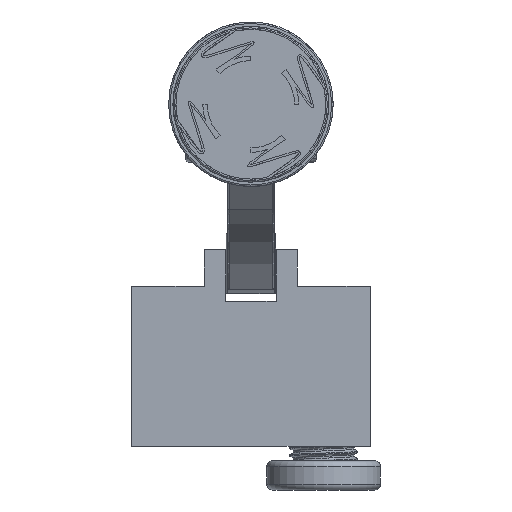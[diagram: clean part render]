
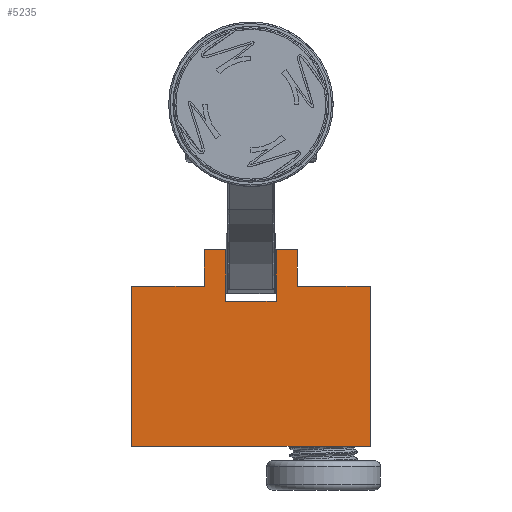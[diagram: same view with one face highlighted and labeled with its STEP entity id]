
A CAD part, front view. The second image highlights one B-rep face of the part: STEP entity #5235.
In plain terms, the highlighted planar face has unit normal (0, -1, 0).
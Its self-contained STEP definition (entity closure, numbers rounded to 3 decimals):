
#648=FACE_OUTER_BOUND('',#966,.T.);
#966=EDGE_LOOP('',(#4478,#4479,#4480,#4481,#4482,#4483,#4484,#4485,#4486,
#4487,#4488,#4489));
#1535=LINE('',#11289,#1903);
#1541=LINE('',#11300,#1909);
#1542=LINE('',#11304,#1910);
#1546=LINE('',#11312,#1914);
#1549=LINE('',#11319,#1917);
#1553=LINE('',#11327,#1921);
#1554=LINE('',#11329,#1922);
#1555=LINE('',#11330,#1923);
#1556=LINE('',#11332,#1924);
#1557=LINE('',#11334,#1925);
#1558=LINE('',#11335,#1926);
#1559=LINE('',#11336,#1927);
#1903=VECTOR('',#6726,10.);
#1909=VECTOR('',#6734,10.);
#1910=VECTOR('',#6737,10.);
#1914=VECTOR('',#6743,10.);
#1917=VECTOR('',#6748,10.);
#1921=VECTOR('',#6754,10.);
#1922=VECTOR('',#6755,10.);
#1923=VECTOR('',#6756,10.);
#1924=VECTOR('',#6757,10.);
#1925=VECTOR('',#6758,10.);
#1926=VECTOR('',#6759,10.);
#1927=VECTOR('',#6760,10.);
#2423=VERTEX_POINT('',#11287);
#2424=VERTEX_POINT('',#11288);
#2428=VERTEX_POINT('',#11298);
#2429=VERTEX_POINT('',#11302);
#2430=VERTEX_POINT('',#11303);
#2433=VERTEX_POINT('',#11311);
#2435=VERTEX_POINT('',#11317);
#2436=VERTEX_POINT('',#11318);
#2439=VERTEX_POINT('',#11326);
#2440=VERTEX_POINT('',#11328);
#2441=VERTEX_POINT('',#11331);
#2442=VERTEX_POINT('',#11333);
#3136=EDGE_CURVE('',#2423,#2424,#1535,.T.);
#3142=EDGE_CURVE('',#2428,#2423,#1541,.T.);
#3143=EDGE_CURVE('',#2429,#2430,#1542,.T.);
#3147=EDGE_CURVE('',#2433,#2430,#1546,.T.);
#3150=EDGE_CURVE('',#2435,#2436,#1549,.T.);
#3154=EDGE_CURVE('',#2439,#2435,#1553,.T.);
#3155=EDGE_CURVE('',#2436,#2440,#1554,.T.);
#3156=EDGE_CURVE('',#2440,#2424,#1555,.T.);
#3157=EDGE_CURVE('',#2441,#2428,#1556,.T.);
#3158=EDGE_CURVE('',#2441,#2442,#1557,.T.);
#3159=EDGE_CURVE('',#2433,#2442,#1558,.T.);
#3160=EDGE_CURVE('',#2439,#2429,#1559,.T.);
#4478=ORIENTED_EDGE('',*,*,#3154,.T.);
#4479=ORIENTED_EDGE('',*,*,#3150,.T.);
#4480=ORIENTED_EDGE('',*,*,#3155,.T.);
#4481=ORIENTED_EDGE('',*,*,#3156,.T.);
#4482=ORIENTED_EDGE('',*,*,#3136,.F.);
#4483=ORIENTED_EDGE('',*,*,#3142,.F.);
#4484=ORIENTED_EDGE('',*,*,#3157,.F.);
#4485=ORIENTED_EDGE('',*,*,#3158,.T.);
#4486=ORIENTED_EDGE('',*,*,#3159,.F.);
#4487=ORIENTED_EDGE('',*,*,#3147,.T.);
#4488=ORIENTED_EDGE('',*,*,#3143,.F.);
#4489=ORIENTED_EDGE('',*,*,#3160,.F.);
#4989=PLANE('',#5667);
#5235=ADVANCED_FACE('',(#648),#4989,.T.);
#5667=AXIS2_PLACEMENT_3D('',#11325,#6752,#6753);
#6726=DIRECTION('',(0.,0.,1.));
#6734=DIRECTION('',(1.,0.,0.));
#6737=DIRECTION('',(0.,0.,-1.));
#6743=DIRECTION('',(-1.,0.,0.));
#6748=DIRECTION('',(-1.,0.,0.));
#6752=DIRECTION('center_axis',(0.,-1.,0.));
#6753=DIRECTION('ref_axis',(1.,0.,0.));
#6754=DIRECTION('',(0.,0.,-1.));
#6755=DIRECTION('',(0.,0.,1.));
#6756=DIRECTION('',(-1.,0.,0.));
#6757=DIRECTION('',(0.,0.,1.));
#6758=DIRECTION('',(1.,0.,0.));
#6759=DIRECTION('',(0.,0.,-1.));
#6760=DIRECTION('',(1.,0.,0.));
#11287=CARTESIAN_POINT('',(-32.,168.56,-85.));
#11288=CARTESIAN_POINT('',(-32.,168.56,-60.));
#11289=CARTESIAN_POINT('',(-32.,168.56,-70.));
#11298=CARTESIAN_POINT('',(-82.,168.56,-85.));
#11300=CARTESIAN_POINT('',(-40.,168.56,-85.));
#11302=CARTESIAN_POINT('',(32.,168.56,-60.));
#11303=CARTESIAN_POINT('',(32.,168.56,-85.));
#11304=CARTESIAN_POINT('',(32.,168.56,-70.));
#11311=CARTESIAN_POINT('',(82.,168.56,-85.));
#11312=CARTESIAN_POINT('',(40.,168.56,-85.));
#11317=CARTESIAN_POINT('',(17.3,168.56,-95.3));
#11318=CARTESIAN_POINT('',(-17.3,168.56,-95.3));
#11319=CARTESIAN_POINT('',(-8.5,168.56,-95.3));
#11325=CARTESIAN_POINT('Origin',(0.,168.56,-81.5));
#11326=CARTESIAN_POINT('',(17.3,168.56,-60.));
#11327=CARTESIAN_POINT('',(17.3,168.56,-85.75));
#11328=CARTESIAN_POINT('',(-17.3,168.56,-60.));
#11329=CARTESIAN_POINT('',(-17.3,168.56,-70.));
#11330=CARTESIAN_POINT('',(-22.,168.56,-60.));
#11331=CARTESIAN_POINT('',(-82.,168.56,-195.));
#11332=CARTESIAN_POINT('',(-82.,168.56,-155.));
#11333=CARTESIAN_POINT('',(82.,168.56,-195.));
#11334=CARTESIAN_POINT('',(41.,168.56,-195.));
#11335=CARTESIAN_POINT('',(82.,168.56,-90.));
#11336=CARTESIAN_POINT('',(17.,168.56,-60.));
